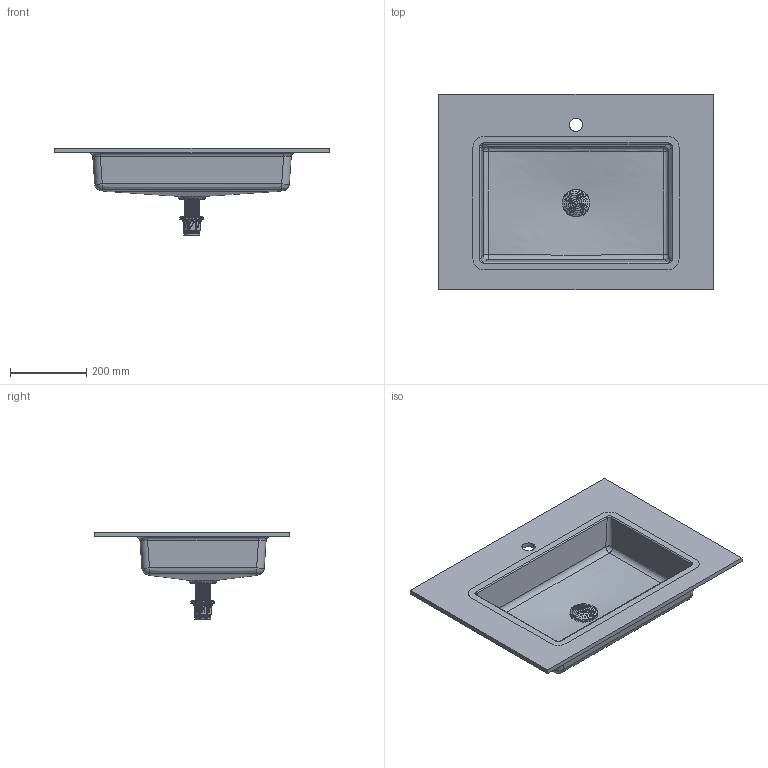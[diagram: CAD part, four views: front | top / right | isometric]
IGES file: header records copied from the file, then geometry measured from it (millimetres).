
Start section: Data from Parasolid IGES Translator 19.0.9, Copyright(c) 2006 Siemens PL M Software. All Rights Reserved.
Global section: file name: noorth-top-H 1,2 D 51,3 W 72_6526.igs; native system: By Siemens PLM Incorporated; preprocessor: XPlus GENERIC/IGES 19.0.9; author: Noname; organization: Noname; date: 20200603.084716; units: metre
Bounding box: 720 x 512 x 229.51 mm (x, y, z)
Volume: 6182598.2 mm3; surface area: 1145386.9 mm2
Topology: 2 solids, 2 shells, 11699 faces, 35041 edges, 34960 vertices
Faces by surface type: extrusion 11618, bspline 41, plane 25, cylinder 14, cone 1
Full cylindrical faces by diameter (mm): 34.9 x1, 45 x1
